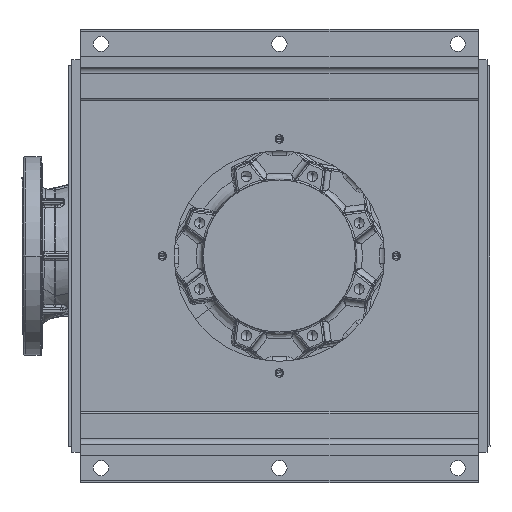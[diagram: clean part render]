
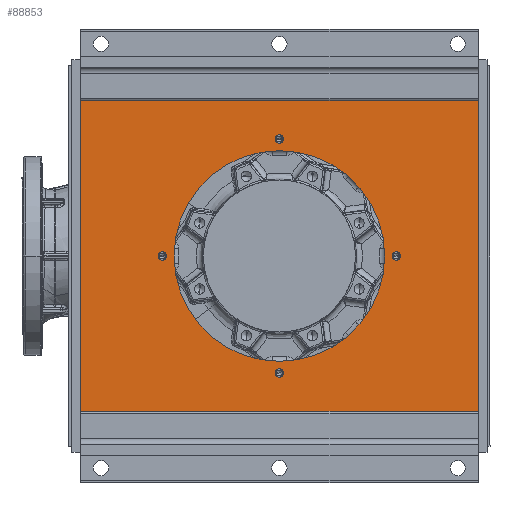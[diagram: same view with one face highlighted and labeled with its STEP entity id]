
A CAD part, front view. The second image highlights one B-rep face of the part: STEP entity #88853.
In plain terms, the highlighted planar face has unit normal (0, -1, 0).
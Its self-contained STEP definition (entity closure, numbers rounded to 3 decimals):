
#1936 = DIRECTION ( 'NONE',  ( 0., 1., 0. ) ) ;
#2231 = DIRECTION ( 'NONE',  ( -1., 0., 0. ) ) ;
#2797 = CIRCLE ( 'NONE', #163482, 7. ) ;
#5249 = VERTEX_POINT ( 'NONE', #26062 ) ;
#6390 = AXIS2_PLACEMENT_3D ( 'NONE', #172683, #87623, #2231 ) ;
#6841 = EDGE_CURVE ( 'NONE', #163859, #72164, #88986, .T. ) ;
#7321 = FACE_BOUND ( 'NONE', #52310, .T. ) ;
#7686 = VERTEX_POINT ( 'NONE', #167104 ) ;
#9933 = CARTESIAN_POINT ( 'NONE',  ( 7., -495.5, -200. ) ) ;
#10324 = DIRECTION ( 'NONE',  ( 0., 0., -1. ) ) ;
#12648 = AXIS2_PLACEMENT_3D ( 'NONE', #17439, #116969, #31789 ) ;
#13260 = EDGE_CURVE ( 'NONE', #146011, #118865, #164231, .T. ) ;
#14823 = CIRCLE ( 'NONE', #6390, 7. ) ;
#16228 = EDGE_CURVE ( 'NONE', #7686, #32569, #21530, .T. ) ;
#17439 = CARTESIAN_POINT ( 'NONE',  ( 0., -495.5, 0. ) ) ;
#20687 = AXIS2_PLACEMENT_3D ( 'NONE', #46423, #145786, #60704 ) ;
#21530 = LINE ( 'NONE', #130339, #21693 ) ;
#21693 = VECTOR ( 'NONE', #131994, 1000. ) ;
#23633 = CIRCLE ( 'NONE', #27905, 7. ) ;
#24182 = EDGE_CURVE ( 'NONE', #72164, #163859, #167582, .T. ) ;
#25846 = EDGE_CURVE ( 'NONE', #117944, #50743, #126171, .T. ) ;
#26062 = CARTESIAN_POINT ( 'NONE',  ( 180., -495.5, 0. ) ) ;
#27297 = AXIS2_PLACEMENT_3D ( 'NONE', #182305, #182078, #181852 ) ;
#27882 = ORIENTED_EDGE ( 'NONE', *, *, #115754, .T. ) ;
#27905 = AXIS2_PLACEMENT_3D ( 'NONE', #37691, #137127, #52026 ) ;
#31789 = DIRECTION ( 'NONE',  ( -1., 0., 0. ) ) ;
#32537 = AXIS2_PLACEMENT_3D ( 'NONE', #87345, #1936, #101605 ) ;
#32569 = VERTEX_POINT ( 'NONE', #99412 ) ;
#32867 = CARTESIAN_POINT ( 'NONE',  ( 340., -495.5, 265.5 ) ) ;
#34789 = CARTESIAN_POINT ( 'NONE',  ( 340., -495.5, 265.5 ) ) ;
#35976 = DIRECTION ( 'NONE',  ( 0., 1., 0. ) ) ;
#37691 = CARTESIAN_POINT ( 'NONE',  ( 0., -495.5, -200. ) ) ;
#40711 = EDGE_CURVE ( 'NONE', #50743, #7686, #107808, .T. ) ;
#41267 = CARTESIAN_POINT ( 'NONE',  ( 207., -495.5, 0. ) ) ;
#43804 = EDGE_LOOP ( 'NONE', ( #56778, #116496, #90380, #65907 ) ) ;
#44301 = EDGE_LOOP ( 'NONE', ( #27882, #112583 ) ) ;
#45367 = FACE_BOUND ( 'NONE', #61099, .T. ) ;
#46320 = ORIENTED_EDGE ( 'NONE', *, *, #167522, .T. ) ;
#46423 = CARTESIAN_POINT ( 'NONE',  ( -200., -495.5, 0. ) ) ;
#50743 = VERTEX_POINT ( 'NONE', #62581 ) ;
#51803 = EDGE_LOOP ( 'NONE', ( #88046, #80286 ) ) ;
#52026 = DIRECTION ( 'NONE',  ( -1., 0., 0. ) ) ;
#52310 = EDGE_LOOP ( 'NONE', ( #66319, #125731 ) ) ;
#52983 = LINE ( 'NONE', #124213, #128588 ) ;
#56778 = ORIENTED_EDGE ( 'NONE', *, *, #25846, .T. ) ;
#58404 = CIRCLE ( 'NONE', #20687, 7. ) ;
#58526 = CARTESIAN_POINT ( 'NONE',  ( -180., -495.5, 0. ) ) ;
#59789 = EDGE_CURVE ( 'NONE', #83360, #70197, #58404, .T. ) ;
#60704 = DIRECTION ( 'NONE',  ( -1., 0., 0. ) ) ;
#61099 = EDGE_LOOP ( 'NONE', ( #46320, #177993 ) ) ;
#62581 = CARTESIAN_POINT ( 'NONE',  ( -340., -495.5, 265.5 ) ) ;
#65318 = CARTESIAN_POINT ( 'NONE',  ( -340., -495.5, -335.5 ) ) ;
#65907 = ORIENTED_EDGE ( 'NONE', *, *, #135055, .F. ) ;
#66319 = ORIENTED_EDGE ( 'NONE', *, *, #142416, .T. ) ;
#66596 = DIRECTION ( 'NONE',  ( 0., 1., 0. ) ) ;
#66823 = EDGE_CURVE ( 'NONE', #110046, #111655, #23633, .T. ) ;
#67137 = CARTESIAN_POINT ( 'NONE',  ( -200., -495.5, 0. ) ) ;
#70197 = VERTEX_POINT ( 'NONE', #129732 ) ;
#72164 = VERTEX_POINT ( 'NONE', #159606 ) ;
#72542 = PLANE ( 'NONE',  #32537 ) ;
#72876 = VERTEX_POINT ( 'NONE', #58526 ) ;
#78783 = FACE_OUTER_BOUND ( 'NONE', #43804, .T. ) ;
#80286 = ORIENTED_EDGE ( 'NONE', *, *, #6841, .T. ) ;
#81447 = DIRECTION ( 'NONE',  ( -1., 0., 0. ) ) ;
#83205 = FACE_BOUND ( 'NONE', #176750, .T. ) ;
#83360 = VERTEX_POINT ( 'NONE', #154097 ) ;
#87345 = CARTESIAN_POINT ( 'NONE',  ( -360., -495.5, -325. ) ) ;
#87623 = DIRECTION ( 'NONE',  ( 0., 1., 0. ) ) ;
#88046 = ORIENTED_EDGE ( 'NONE', *, *, #24182, .T. ) ;
#88852 = AXIS2_PLACEMENT_3D ( 'NONE', #101438, #101646, #101826 ) ;
#88853 = ADVANCED_FACE ( 'NONE', ( #158762, #7321, #83205, #45367, #120946, #78783 ), #72542, .F. ) ;
#88986 = CIRCLE ( 'NONE', #88852, 7. ) ;
#90380 = ORIENTED_EDGE ( 'NONE', *, *, #16228, .T. ) ;
#96281 = EDGE_CURVE ( 'NONE', #111655, #110046, #2797, .T. ) ;
#97059 = CIRCLE ( 'NONE', #165186, 180. ) ;
#99412 = CARTESIAN_POINT ( 'NONE',  ( 340., -495.5, -265.5 ) ) ;
#101438 = CARTESIAN_POINT ( 'NONE',  ( 0., -495.5, 200. ) ) ;
#101605 = DIRECTION ( 'NONE',  ( -1., 0., 0. ) ) ;
#101646 = DIRECTION ( 'NONE',  ( 0., 1., 0. ) ) ;
#101826 = DIRECTION ( 'NONE',  ( -1., 0., 0. ) ) ;
#106395 = VECTOR ( 'NONE', #150373, 1000. ) ;
#107808 = LINE ( 'NONE', #65318, #106395 ) ;
#109465 = AXIS2_PLACEMENT_3D ( 'NONE', #67137, #166471, #81447 ) ;
#110021 = CARTESIAN_POINT ( 'NONE',  ( 7., -495.5, 200. ) ) ;
#110046 = VERTEX_POINT ( 'NONE', #129320 ) ;
#111655 = VERTEX_POINT ( 'NONE', #9933 ) ;
#112583 = ORIENTED_EDGE ( 'NONE', *, *, #138844, .T. ) ;
#115754 = EDGE_CURVE ( 'NONE', #72876, #5249, #119082, .T. ) ;
#116496 = ORIENTED_EDGE ( 'NONE', *, *, #40711, .T. ) ;
#116969 = DIRECTION ( 'NONE',  ( 0., 1., 0. ) ) ;
#117944 = VERTEX_POINT ( 'NONE', #34789 ) ;
#118865 = VERTEX_POINT ( 'NONE', #119174 ) ;
#119082 = CIRCLE ( 'NONE', #12648, 180. ) ;
#119174 = CARTESIAN_POINT ( 'NONE',  ( 193., -495.5, 0. ) ) ;
#120946 = FACE_BOUND ( 'NONE', #44301, .T. ) ;
#121176 = CARTESIAN_POINT ( 'NONE',  ( 0., -495.5, 0. ) ) ;
#124213 = CARTESIAN_POINT ( 'NONE',  ( 340., -495.5, -335.5 ) ) ;
#125731 = ORIENTED_EDGE ( 'NONE', *, *, #59789, .T. ) ;
#126171 = LINE ( 'NONE', #32867, #126707 ) ;
#126707 = VECTOR ( 'NONE', #146592, 1000. ) ;
#128199 = AXIS2_PLACEMENT_3D ( 'NONE', #151830, #151680, #151268 ) ;
#128588 = VECTOR ( 'NONE', #10324, 1000. ) ;
#128977 = ORIENTED_EDGE ( 'NONE', *, *, #96281, .T. ) ;
#129320 = CARTESIAN_POINT ( 'NONE',  ( -7., -495.5, -200. ) ) ;
#129732 = CARTESIAN_POINT ( 'NONE',  ( -207., -495.5, 0. ) ) ;
#130339 = CARTESIAN_POINT ( 'NONE',  ( -340., -495.5, -265.5 ) ) ;
#131136 = ORIENTED_EDGE ( 'NONE', *, *, #66823, .T. ) ;
#131994 = DIRECTION ( 'NONE',  ( 1., 0., 0. ) ) ;
#135055 = EDGE_CURVE ( 'NONE', #117944, #32569, #52983, .T. ) ;
#135443 = DIRECTION ( 'NONE',  ( -1., 0., 0. ) ) ;
#137127 = DIRECTION ( 'NONE',  ( 0., 1., 0. ) ) ;
#138844 = EDGE_CURVE ( 'NONE', #5249, #72876, #97059, .T. ) ;
#142416 = EDGE_CURVE ( 'NONE', #70197, #83360, #146758, .T. ) ;
#145786 = DIRECTION ( 'NONE',  ( 0., 1., 0. ) ) ;
#146011 = VERTEX_POINT ( 'NONE', #41267 ) ;
#146592 = DIRECTION ( 'NONE',  ( -1., 0., 0. ) ) ;
#146758 = CIRCLE ( 'NONE', #109465, 7. ) ;
#150373 = DIRECTION ( 'NONE',  ( 0., 0., -1. ) ) ;
#151268 = DIRECTION ( 'NONE',  ( -1., 0., 0. ) ) ;
#151607 = CARTESIAN_POINT ( 'NONE',  ( 0., -495.5, -200. ) ) ;
#151680 = DIRECTION ( 'NONE',  ( 0., 1., 0. ) ) ;
#151830 = CARTESIAN_POINT ( 'NONE',  ( 0., -495.5, 200. ) ) ;
#154097 = CARTESIAN_POINT ( 'NONE',  ( -193., -495.5, 0. ) ) ;
#158762 = FACE_BOUND ( 'NONE', #51803, .T. ) ;
#159606 = CARTESIAN_POINT ( 'NONE',  ( -7., -495.5, 200. ) ) ;
#163482 = AXIS2_PLACEMENT_3D ( 'NONE', #151607, #66596, #165943 ) ;
#163859 = VERTEX_POINT ( 'NONE', #110021 ) ;
#164231 = CIRCLE ( 'NONE', #27297, 7. ) ;
#165186 = AXIS2_PLACEMENT_3D ( 'NONE', #121176, #35976, #135443 ) ;
#165943 = DIRECTION ( 'NONE',  ( -1., 0., 0. ) ) ;
#166471 = DIRECTION ( 'NONE',  ( 0., 1., 0. ) ) ;
#167104 = CARTESIAN_POINT ( 'NONE',  ( -340., -495.5, -265.5 ) ) ;
#167522 = EDGE_CURVE ( 'NONE', #118865, #146011, #14823, .T. ) ;
#167582 = CIRCLE ( 'NONE', #128199, 7. ) ;
#172683 = CARTESIAN_POINT ( 'NONE',  ( 200., -495.5, 0. ) ) ;
#176750 = EDGE_LOOP ( 'NONE', ( #131136, #128977 ) ) ;
#177993 = ORIENTED_EDGE ( 'NONE', *, *, #13260, .T. ) ;
#181852 = DIRECTION ( 'NONE',  ( -1., 0., 0. ) ) ;
#182078 = DIRECTION ( 'NONE',  ( 0., 1., 0. ) ) ;
#182305 = CARTESIAN_POINT ( 'NONE',  ( 200., -495.5, 0. ) ) ;
